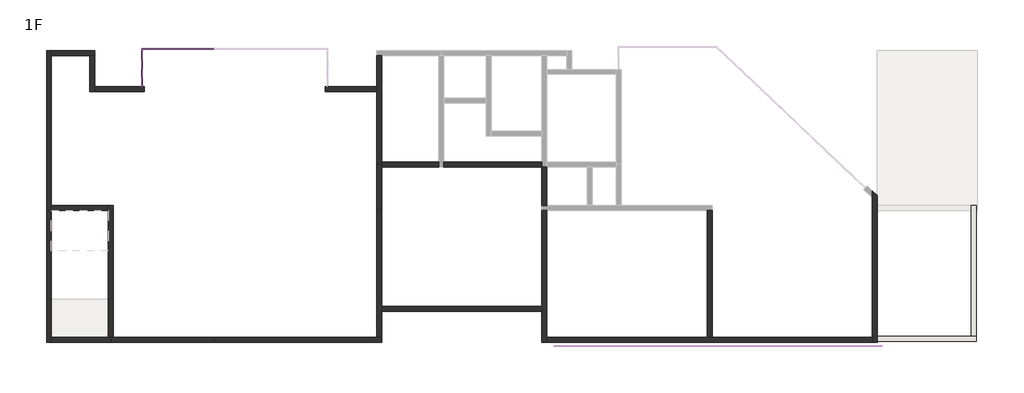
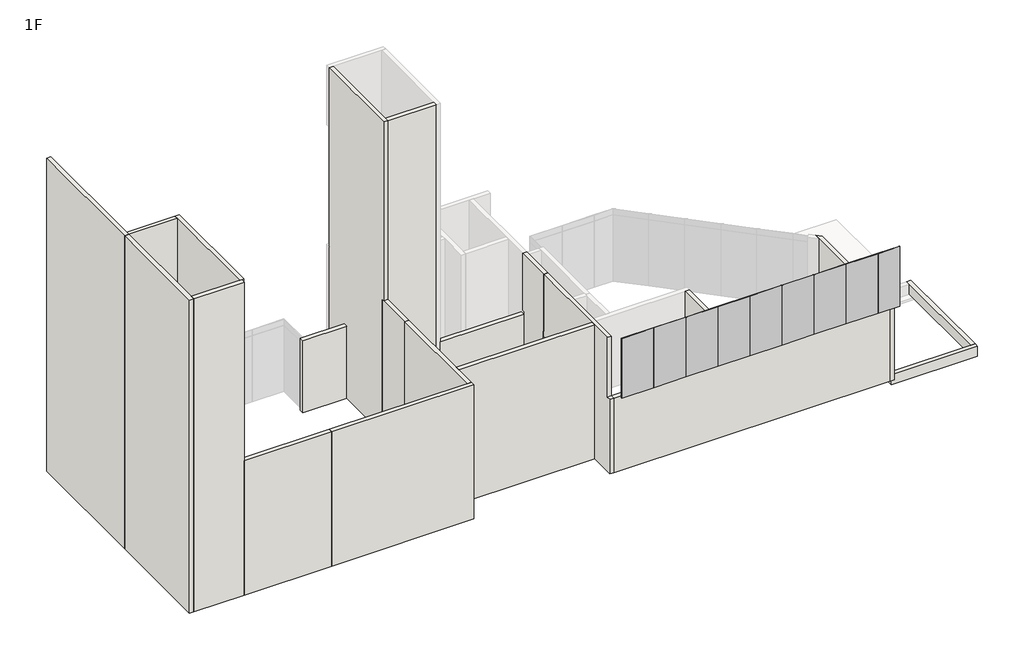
# One storey, part 1 of 2: 24 walls, 17 plates.
"""IFC4 building model written with IfcOpenShell, lengths in millimetres."""

from ifc_helpers import new_model, si_unit, origin, origin_with_axes, place, context, project, spatial, polyline, outline, extrude, faceted_brep, transform, mapped, element, save
from components import plate_0c29ff76, plate_bc78ace2, plate_2c2a9886, plate_74756071, plate_0147c95a, plate_d467b3da, plate_56329b22, plate_ae86cf34, plate_af46959f

model = new_model("IFC4")

# Units and contexts
model_context = context("Model", 3, world=origin())
ifc_project = project(units=[si_unit("LENGTHUNIT", "METRE", prefix="MILLI")], contexts=[model_context])

# Site, building, storey
site = spatial("IfcSite", under=ifc_project)
building = spatial("IfcBuilding", under=site)
storey = spatial("IfcBuildingStorey", under=building, Name="1F", Elevation=0.0)

# Plates
placement = place(None, origin())
plate_shape = plate_0c29ff76(model_context)
element("IfcPlate", 1, ObjectType="系统嵌板 : 玻璃", at=placement, inside=storey, context=model_context, shape_type="MappedRepresentation", body=[
    mapped(plate_shape, transform((-1665.4379116, 8988.8697102, 0.0), x_axis=(-1.0, 0.0, 0.0), y_axis=(0.0, -1.0, 0.0), z_axis=(0.0, 0.0, 1.0))),
])
element("IfcPlate", 2, ObjectType="系统嵌板 : 玻璃", at=placement, inside=storey, context=model_context, shape_type="MappedRepresentation", body=[
    mapped(plate_shape, transform((-4260.4379116, 8073.8697102, 0.0), x_axis=(0.0, -1.0, 0.0), y_axis=(1.0, 0.0, 0.0), z_axis=(0.0, 0.0, 1.0))),
])
plate_2_shape = plate_bc78ace2(model_context)
element("IfcPlate", 3, ObjectType="系统嵌板 : 玻璃", at=placement, inside=storey, context=model_context, shape_type="MappedRepresentation", body=[
    mapped(plate_2_shape, transform((-4260.4379116, 7153.8697102, 0.0), x_axis=(0.0, -1.0, 0.0), y_axis=(1.0, 0.0, 0.0), z_axis=(0.0, 0.0, 1.0))),
])
plate_3_shape = plate_2c2a9886(model_context)
element("IfcPlate", 4, ObjectType="系统嵌板 : 玻璃", at=placement, inside=storey, context=model_context, shape_type="MappedRepresentation", body=[
    mapped(plate_3_shape, transform((-3420.4379116, 8988.8697102, 0.0), x_axis=(-1.0, 0.0, 0.0), y_axis=(0.0, -1.0, 0.0), z_axis=(0.0, 0.0, 1.0))),
])
plate_4_shape = plate_74756071(model_context)
element("IfcPlate", 5, ObjectType="系统嵌板 : 玻璃", at=placement, inside=storey, context=model_context, shape_type="MappedRepresentation", body=[
    mapped(plate_4_shape, transform((-1665.4379116, 8988.8697102, 4000.0), x_axis=(-1.0, 0.0, 0.0), y_axis=(0.0, -1.0, 0.0), z_axis=(0.0, 0.0, 1.0))),
])
plate_5_shape = plate_0147c95a(model_context)
element("IfcPlate", 6, ObjectType="系统嵌板 : 玻璃", at=placement, inside=storey, context=model_context, shape_type="MappedRepresentation", body=[
    mapped(plate_5_shape, transform((-3420.4379116, 8988.8697102, 4000.0), x_axis=(-1.0, 0.0, 0.0), y_axis=(0.0, -1.0, 0.0), z_axis=(0.0, 0.0, 1.0))),
])
plate_6_shape = plate_d467b3da(model_context)
element("IfcPlate", 7, ObjectType="系统嵌板 : 玻璃", at=placement, inside=storey, context=model_context, shape_type="MappedRepresentation", body=[
    mapped(plate_6_shape, transform((-4260.4379116, 8073.8697102, 4000.0), x_axis=(0.0, -1.0, 0.0), y_axis=(1.0, 0.0, 0.0), z_axis=(0.0, 0.0, 1.0))),
])
plate_7_shape = plate_56329b22(model_context)
element("IfcPlate", 8, ObjectType="系统嵌板 : 玻璃", at=placement, inside=storey, context=model_context, shape_type="MappedRepresentation", body=[
    mapped(plate_7_shape, transform((-4260.4379116, 7153.8697102, 4000.0), x_axis=(0.0, -1.0, 0.0), y_axis=(1.0, 0.0, 0.0), z_axis=(0.0, 0.0, 1.0))),
])
plate_8_shape = plate_ae86cf34(model_context)
element("IfcPlate", 9, ObjectType="系统嵌板 : 玻璃", at=placement, inside=storey, context=model_context, shape_type="MappedRepresentation", body=[
    mapped(plate_8_shape, transform((16604.5620884, -5438.6302898, 4500.0), x_axis=(1.0, 0.0, 0.0), y_axis=(0.0, 1.0, 0.0), z_axis=(0.0, 0.0, 1.0))),
])
element("IfcPlate", 10, ObjectType="系统嵌板 : 玻璃", at=placement, inside=storey, context=model_context, shape_type="MappedRepresentation", body=[
    mapped(plate_8_shape, transform((18434.5620884, -5438.6302898, 4500.0), x_axis=(1.0, 0.0, 0.0), y_axis=(0.0, 1.0, 0.0), z_axis=(0.0, 0.0, 1.0))),
])
element("IfcPlate", 11, ObjectType="系统嵌板 : 玻璃", at=placement, inside=storey, context=model_context, shape_type="MappedRepresentation", body=[
    mapped(plate_8_shape, transform((20264.5620884, -5438.6302898, 4500.0), x_axis=(1.0, 0.0, 0.0), y_axis=(0.0, 1.0, 0.0), z_axis=(0.0, 0.0, 1.0))),
])
element("IfcPlate", 12, ObjectType="系统嵌板 : 玻璃", at=placement, inside=storey, context=model_context, shape_type="MappedRepresentation", body=[
    mapped(plate_8_shape, transform((22094.5620884, -5438.6302898, 4500.0), x_axis=(1.0, 0.0, 0.0), y_axis=(0.0, 1.0, 0.0), z_axis=(0.0, 0.0, 1.0))),
])
element("IfcPlate", 13, ObjectType="系统嵌板 : 玻璃", at=placement, inside=storey, context=model_context, shape_type="MappedRepresentation", body=[
    mapped(plate_8_shape, transform((23924.5620884, -5438.6302898, 4500.0), x_axis=(1.0, 0.0, 0.0), y_axis=(0.0, 1.0, 0.0), z_axis=(0.0, 0.0, 1.0))),
])
element("IfcPlate", 14, ObjectType="系统嵌板 : 玻璃", at=placement, inside=storey, context=model_context, shape_type="MappedRepresentation", body=[
    mapped(plate_8_shape, transform((25754.5620884, -5438.6302898, 4500.0), x_axis=(1.0, 0.0, 0.0), y_axis=(0.0, 1.0, 0.0), z_axis=(0.0, 0.0, 1.0))),
])
element("IfcPlate", 15, ObjectType="系统嵌板 : 玻璃", at=placement, inside=storey, context=model_context, shape_type="MappedRepresentation", body=[
    mapped(plate_8_shape, transform((27584.5620884, -5438.6302898, 4500.0), x_axis=(1.0, 0.0, 0.0), y_axis=(0.0, 1.0, 0.0), z_axis=(0.0, 0.0, 1.0))),
])
element("IfcPlate", 16, ObjectType="系统嵌板 : 玻璃", at=placement, inside=storey, context=model_context, shape_type="MappedRepresentation", body=[
    mapped(plate_8_shape, transform((29414.5620884, -5438.6302898, 4500.0), x_axis=(1.0, 0.0, 0.0), y_axis=(0.0, 1.0, 0.0), z_axis=(0.0, 0.0, 1.0))),
])
plate_9_shape = plate_af46959f(model_context)
element("IfcPlate", 17, ObjectType="系统嵌板 : 玻璃", at=placement, inside=storey, context=model_context, shape_type="MappedRepresentation", body=[
    mapped(plate_9_shape, transform((30950.8120884, -5438.6302898, 4500.0), x_axis=(1.0, 0.0, 0.0), y_axis=(0.0, 1.0, 0.0), z_axis=(0.0, 0.0, 1.0))),
])

# Walls
element("IfcWall", 18, ObjectType="常规 - 240mm", at=placement, inside=storey, context=model_context, shape_type="Brep", body=[
    faceted_brep([(-8880.4379116, 8888.8697102, 0.0), (-8880.4379116, 1148.8697102, 0.0), (-8880.4379116, 1148.8697102, 18900.0), (-8880.4379116, 8888.8697102, 18900.0), (-8640.4379116, 8888.8697102, 0.0), (-8640.4379116, 8888.8697102, 8100.0), (-8640.4379116, 8888.8697102, 18900.0), (-8640.4379116, 1388.8697102, 18900.0), (-8640.4379116, 1148.8697102, 18900.0), (-8640.4379116, 1148.8697102, 0.0), (-8640.4379116, 1388.8697102, 0.0), (-8640.4379116, 8648.8697102, 0.0)], [[[0, 1, 2, 3]], [[4, 5, 6, 7, 8, 9, 10, 11]], [[1, 0, 4, 11, 10, 9]], [[3, 2, 8, 7, 6]], [[0, 3, 6, 5, 4]], [[2, 1, 9, 8]]]),
])
element("IfcWall", 19, ObjectType="常规 - 240mm", at=placement, inside=storey, context=model_context, shape_type="Brep", body=[
    faceted_brep([(-8640.4379116, -5251.1302898, 0.0), (-5760.4379116, -5251.1302898, 0.0), (-5760.4379116, -5251.1302898, 8100.0), (-5760.4379116, -5251.1302898, 18900.0), (-8640.4379116, -5251.1302898, 18900.0), (-8640.4379116, -5011.1302898, 0.0), (-8640.4379116, -5011.1302898, 18900.0), (-5880.4379116, -5011.1302898, 18900.0), (-5760.4379116, -5011.1302898, 18900.0), (-5760.4379116, -5011.1302898, 8100.0), (-5760.4379116, -5011.1302898, 0.0), (-5880.4379116, -5011.1302898, 0.0)], [[[0, 1, 2, 3, 4]], [[5, 6, 7, 8, 9, 10, 11]], [[1, 0, 5, 11, 10]], [[4, 3, 8, 7, 6]], [[0, 4, 6, 5]], [[1, 10, 9, 8, 3, 2]]]),
])
element("IfcWall", 20, ObjectType="常规 - 240mm", at=placement, inside=storey, context=model_context, shape_type="Brep", body=[
    faceted_brep([(7359.5620884, -5011.1302898, 0.0), (7359.5620884, -3751.1302898, 0.0), (7359.5620884, -3511.1302898, 0.0), (7359.5620884, 1168.8697102, 0.0), (7359.5620884, 1168.8697102, 8100.0), (7359.5620884, -3511.1302898, 8100.0), (7359.5620884, -3751.1302898, 8100.0), (7359.5620884, -5011.1302898, 8100.0), (7119.5620884, -5011.1302898, 0.0), (7119.5620884, -5011.1302898, 8100.0), (7119.5620884, 1168.8697102, 8100.0), (7119.5620884, 1168.8697102, 0.0)], [[[0, 1, 2, 3, 4, 5, 6, 7]], [[8, 9, 10, 11]], [[3, 2, 1, 0, 8, 11]], [[4, 3, 11, 10]], [[7, 6, 5, 4, 10, 9]], [[0, 7, 9, 8]]]),
])
element("IfcWall", 21, ObjectType="常规 - 240mm 2", at=placement, inside=storey, context=model_context, shape_type="SweptSolid", body=[
    extrude(outline(polyline([(23359.5620884, 1148.8697102), (23359.5620884, -5011.1302898), (23119.5620884, -5011.1302898), (23119.5620884, 1148.8697102), (23359.5620884, 1148.8697102)])), origin_with_axes(), (0.0, 0.0, 1.0), 4350.0),
])
element("IfcWall", 22, ObjectType="常规 - 240mm 2", at=placement, inside=storey, context=model_context, shape_type="Brep", body=[
    faceted_brep([(-5640.4379116, -5011.1302898, 18900.0), (-5640.4379116, -5011.1302898, 0.0), (-5640.4379116, -4951.1302898, 0.0), (-5640.4379116, 1148.8697102, 0.0), (-5640.4379116, 1388.8697102, 0.0), (-5640.4379116, 1388.8697102, 8100.0), (-5640.4379116, 1388.8697102, 11700.0), (-5640.4379116, 1388.8697102, 18900.0), (-5880.4379116, -5011.1302898, 0.0), (-5880.4379116, -5011.1302898, 18900.0), (-5880.4379116, 1148.8697102, 18900.0), (-5880.4379116, 1388.8697102, 18900.0), (-5880.4379116, 1388.8697102, 0.0), (-5880.4379116, 1148.8697102, 0.0), (-5880.4379116, -4951.1302898, 0.0), (-5760.4379116, -5011.1302898, 0.0), (-5760.4379116, -5011.1302898, 18900.0)], [[[0, 1, 2, 3, 4, 5, 6, 7]], [[8, 9, 10, 11, 12, 13, 14]], [[4, 3, 2, 1, 15, 8, 14, 13, 12]], [[0, 7, 11, 10, 9, 16]], [[0, 16, 9, 8, 15, 1]], [[4, 12, 11, 7, 6, 5]]]),
])
element("IfcWall", 23, ObjectType="常规 - 240mm 2", at=placement, inside=storey, context=model_context, shape_type="Brep", body=[
    faceted_brep([(-5880.4379116, 1388.8697102, 18900.0), (-5880.4379116, 1388.8697102, 0.0), (-8580.4379116, 1388.8697102, 0.0), (-8640.4379116, 1388.8697102, 0.0), (-8640.4379116, 1388.8697102, 18900.0), (-5880.4379116, 1148.8697102, 0.0), (-5880.4379116, 1148.8697102, 18900.0), (-8640.4379116, 1148.8697102, 18900.0), (-8640.4379116, 1148.8697102, 0.0), (-8580.4379116, 1148.8697102, 0.0)], [[[0, 1, 2, 3, 4]], [[5, 6, 7, 8, 9]], [[3, 2, 1, 5, 9, 8]], [[0, 4, 7, 6]], [[4, 3, 8, 7]], [[0, 6, 5, 1]]]),
])
element("IfcWall", 24, ObjectType="常规 - 240mm", at=placement, inside=storey, context=model_context, shape_type="Brep", body=[
    faceted_brep([(31359.5620884, -5251.1302898, 4350.0), (31359.5620884, -5251.1302898, 0.0), (31359.5620884, -5191.1302898, 0.0), (31359.5620884, -4951.1302898, 0.0), (31359.5620884, 1268.8697102, 0.0), (31359.5620884, 1868.8697102, 0.0), (31359.5620884, 1868.8697102, 4350.0), (31119.5620884, -5251.1302898, 0.0), (31119.5620884, -5251.1302898, 4350.0), (31119.5620884, 2096.6649858, 4350.0), (31119.5620884, 2096.6649858, 0.0), (31119.5620884, 1268.8697102, 0.0), (31119.5620884, -4951.1302898, 0.0), (31119.5620884, -5011.1302898, 0.0)], [[[0, 1, 2, 3, 4, 5, 6]], [[7, 8, 9, 10, 11, 12, 13]], [[5, 4, 3, 2, 1, 7, 13, 12, 11, 10]], [[6, 5, 10, 9]], [[0, 6, 9, 8]], [[0, 8, 7, 1]]]),
])
element("IfcWall", 25, ObjectType="常规 - 240mm", at=placement, inside=storey, context=model_context, shape_type="SweptSolid", body=[
    extrude(outline(polyline([(15119.5620884, -3751.1302898), (7359.5620884, -3751.1302898), (7359.5620884, -3511.1302898), (15119.5620884, -3511.1302898), (15119.5620884, -3751.1302898)])), origin_with_axes(), (0.0, 0.0, 1.0), 8100.0),
])
element("IfcWall", 26, ObjectType="常规 - 240mm", at=placement, inside=storey, context=model_context, shape_type="Brep", body=[
    faceted_brep([(-6780.4379116, 8648.8697102, 0.0), (-6780.4379116, 6908.8697102, 0.0), (-6780.4379116, 6908.8697102, 4350.0), (-6780.4379116, 8648.8697102, 4350.0), (-6540.4379116, 8648.8697102, 0.0), (-6540.4379116, 8648.8697102, 4350.0), (-6540.4379116, 7148.8697102, 4350.0), (-6540.4379116, 6908.8697102, 4350.0), (-6540.4379116, 6908.8697102, 0.0), (-6540.4379116, 7148.8697102, 0.0)], [[[0, 1, 2, 3]], [[4, 5, 6, 7, 8, 9]], [[1, 0, 4, 9, 8]], [[2, 1, 8, 7]], [[3, 2, 7, 6, 5]], [[0, 3, 5, 4]]]),
])
element("IfcWall", 27, ObjectType="常规 - 240mm", at=placement, inside=storey, context=model_context, shape_type="SweptSolid", body=[
    extrude(outline(polyline([(-4140.4379116, 6908.8697102), (-6540.4379116, 6908.8697102), (-6540.4379116, 7148.8697102), (-4140.4379116, 7148.8697102), (-4140.4379116, 6908.8697102)])), origin_with_axes(), (0.0, 0.0, 1.0), 4350.0),
])
element("IfcWall", 28, ObjectType="常规 - 240mm", at=placement, inside=storey, context=model_context, shape_type="Brep", body=[
    faceted_brep([(-6540.4379116, 8888.8697102, 0.0), (-8640.4379116, 8888.8697102, 0.0), (-8640.4379116, 8888.8697102, 8100.0), (-6540.4379116, 8888.8697102, 8100.0), (-6540.4379116, 8648.8697102, 0.0), (-6540.4379116, 8648.8697102, 4350.0), (-6540.4379116, 8648.8697102, 8100.0), (-8640.4379116, 8648.8697102, 8100.0), (-8640.4379116, 8648.8697102, 0.0), (-6780.4379116, 8648.8697102, 0.0)], [[[0, 1, 2, 3]], [[4, 5, 6, 7, 8, 9]], [[1, 0, 4, 9, 8]], [[3, 2, 7, 6]], [[0, 3, 6, 5, 4]], [[2, 1, 8, 7]]]),
])
element("IfcWall", 29, ObjectType="常规 - 240mm", at=placement, inside=storey, context=model_context, shape_type="SweptSolid", body=[
    extrude(outline(polyline([(7119.5620884, 6908.8697102), (4619.5620884, 6908.8697102), (4619.5620884, 7148.8697102), (7119.5620884, 7148.8697102), (7119.5620884, 6908.8697102)])), origin_with_axes(), (0.0, 0.0, 1.0), 4350.0),
])
element("IfcWall", 30, ObjectType="常规 - 240mm", at=placement, inside=storey, context=model_context, shape_type="Brep", body=[
    faceted_brep([(15119.5620884, 1148.8697102, 0.0), (15119.5620884, -3511.1302898, 0.0), (15119.5620884, -3751.1302898, 0.0), (15119.5620884, -5251.1302898, 0.0), (15119.5620884, -5251.1302898, 4500.0), (15119.5620884, -5011.1302898, 4500.0), (15119.5620884, -5011.1302898, 8100.0), (15119.5620884, -3751.1302898, 8100.0), (15119.5620884, -3511.1302898, 8100.0), (15119.5620884, 1268.8697102, 8100.0), (15119.5620884, 1268.8697102, 4650.0), (15119.5620884, 1268.8697102, 4350.0), (15119.5620884, 1148.8697102, 4350.0), (15359.5620884, 1148.8697102, 0.0), (15359.5620884, 1148.8697102, 4350.0), (15359.5620884, 1268.8697102, 4350.0), (15359.5620884, 1268.8697102, 4650.0), (15359.5620884, 1268.8697102, 8100.0), (15359.5620884, -5011.1302898, 8100.0), (15359.5620884, -5011.1302898, 4500.0), (15359.5620884, -5251.1302898, 4500.0), (15359.5620884, -5251.1302898, 0.0), (15359.5620884, -5011.1302898, 0.0)], [[[0, 1, 2, 3, 4, 5, 6, 7, 8, 9, 10, 11, 12]], [[13, 14, 15, 16, 17, 18, 19, 20, 21, 22]], [[3, 2, 1, 0, 13, 22, 21]], [[9, 8, 7, 6, 18, 17]], [[11, 10, 9, 17, 16, 15]], [[11, 15, 14, 12]], [[0, 12, 14, 13]], [[19, 5, 4, 20]], [[4, 3, 21, 20]], [[6, 5, 19, 18]]]),
])
element("IfcWall", 31, ObjectType="常规 - 240mm", at=placement, inside=storey, context=model_context, shape_type="Brep", body=[
    faceted_brep([(15119.5620884, 3248.8697102, 4650.0), (15119.5620884, 3248.8697102, 0.0), (15119.5620884, 1388.8697102, 0.0), (15119.5620884, 1388.8697102, 4350.0), (15119.5620884, 1388.8697102, 4650.0), (15119.5620884, 1268.8697102, 4650.0), (15119.5620884, 1268.8697102, 8100.0), (15119.5620884, 3248.8697102, 8100.0), (15119.5620884, 3368.8697102, 8100.0), (15119.5620884, 3368.8697102, 4650.0), (15359.5620884, 3248.8697102, 0.0), (15359.5620884, 3248.8697102, 4650.0), (15359.5620884, 3368.8697102, 4650.0), (15359.5620884, 3368.8697102, 8100.0), (15359.5620884, 1268.8697102, 8100.0), (15359.5620884, 1268.8697102, 4650.0), (15359.5620884, 1388.8697102, 4650.0), (15359.5620884, 1388.8697102, 0.0)], [[[0, 1, 2, 3, 4, 5, 6, 7, 8, 9]], [[10, 11, 12, 13, 14, 15, 16, 17]], [[2, 1, 10, 17]], [[8, 7, 6, 14, 13]], [[6, 5, 15, 14]], [[15, 5, 4, 16]], [[4, 3, 2, 17, 16]], [[9, 8, 13, 12]], [[9, 12, 11, 0]], [[0, 11, 10, 1]]]),
])
element("IfcWall", 32, ObjectType="常规 - 240mm 2", at=placement, inside=storey, context=model_context, shape_type="Brep", body=[
    faceted_brep([(10119.5620884, 3488.8697102, 18900.0), (10119.5620884, 3488.8697102, 0.0), (7359.5620884, 3488.8697102, 0.0), (7359.5620884, 3488.8697102, 18900.0), (10119.5620884, 3248.8697102, 0.0), (10119.5620884, 3248.8697102, 18900.0), (7359.5620884, 3248.8697102, 18900.0), (7359.5620884, 3248.8697102, 8100.0), (7359.5620884, 3248.8697102, 0.0), (7359.5620884, 3368.8697102, 0.0)], [[[0, 1, 2, 3]], [[4, 5, 6, 7, 8]], [[2, 1, 4, 8, 9]], [[0, 3, 6, 5]], [[2, 9, 8, 7, 6, 3]], [[0, 5, 4, 1]]]),
])
element("IfcWall", 33, ObjectType="常规 - 240mm 2", at=placement, inside=storey, context=model_context, shape_type="Brep", body=[
    faceted_brep([(15119.5620884, 3488.8697102, 0.0), (10359.5620884, 3488.8697102, 0.0), (10359.5620884, 3488.8697102, 4500.0), (15119.5620884, 3488.8697102, 4500.0), (15119.5620884, 3248.8697102, 0.0), (15119.5620884, 3248.8697102, 4500.0), (10359.5620884, 3248.8697102, 4500.0), (10359.5620884, 3248.8697102, 0.0), (10359.5620884, 3368.8697102, 4500.0)], [[[0, 1, 2, 3]], [[4, 5, 6, 7]], [[1, 0, 4, 7]], [[3, 2, 8, 6, 5]], [[2, 1, 7, 6, 8]], [[0, 3, 5, 4]]]),
])
element("IfcWall", 34, ObjectType="常规 - 240mm 2", at=placement, inside=storey, context=model_context, shape_type="Brep", body=[
    faceted_brep([(7359.5620884, 3368.8697102, 0.0), (7359.5620884, 3488.8697102, 0.0), (7359.5620884, 8648.8697102, 0.0), (7359.5620884, 8648.8697102, 18900.0), (7359.5620884, 3488.8697102, 18900.0), (7359.5620884, 3248.8697102, 18900.0), (7359.5620884, 3248.8697102, 8100.0), (7359.5620884, 3368.8697102, 8100.0), (7119.5620884, 3368.8697102, 0.0), (7119.5620884, 3368.8697102, 8100.0), (7119.5620884, 3248.8697102, 8100.0), (7119.5620884, 3248.8697102, 11700.0), (7119.5620884, 3248.8697102, 18900.0), (7119.5620884, 8648.8697102, 18900.0), (7119.5620884, 8648.8697102, 15300.0), (7119.5620884, 8648.8697102, 8100.0), (7119.5620884, 8648.8697102, 0.0), (7119.5620884, 7148.8697102, 0.0), (7119.5620884, 6908.8697102, 0.0)], [[[0, 1, 2, 3, 4, 5, 6, 7]], [[8, 9, 10, 11, 12, 13, 14, 15, 16, 17, 18]], [[2, 1, 0, 8, 18, 17, 16]], [[5, 4, 3, 13, 12]], [[0, 7, 9, 8]], [[6, 10, 9, 7]], [[2, 16, 15, 14, 13, 3]], [[5, 12, 11, 10, 6]]]),
])
element("IfcWall", 35, ObjectType="常规 - 240mm", at=placement, inside=storey, context=model_context, shape_type="Brep", body=[
    faceted_brep([(7359.5620884, 1168.8697102, 0.0), (7359.5620884, 3248.8697102, 0.0), (7359.5620884, 3368.8697102, 0.0), (7359.5620884, 3368.8697102, 8100.0), (7359.5620884, 3248.8697102, 8100.0), (7359.5620884, 1168.8697102, 8100.0), (7119.5620884, 1168.8697102, 0.0), (7119.5620884, 1168.8697102, 8100.0), (7119.5620884, 3248.8697102, 8100.0), (7119.5620884, 3368.8697102, 8100.0), (7119.5620884, 3368.8697102, 0.0)], [[[0, 1, 2, 3, 4, 5]], [[6, 7, 8, 9, 10]], [[2, 1, 0, 6, 10]], [[3, 2, 10, 9]], [[5, 4, 3, 9, 8, 7]], [[0, 5, 7, 6]]]),
])
element("IfcWall", 36, ObjectType="常规 - 240mm", at=placement, inside=storey, context=model_context, shape_type="Brep", body=[
    faceted_brep([(-8880.4379116, 1148.8697102, 0.0), (-8880.4379116, -5251.1302898, 0.0), (-8880.4379116, -5251.1302898, 18900.0), (-8880.4379116, 1148.8697102, 18900.0), (-8640.4379116, 1148.8697102, 0.0), (-8640.4379116, 1148.8697102, 18900.0), (-8640.4379116, -5011.1302898, 18900.0), (-8640.4379116, -5251.1302898, 18900.0), (-8640.4379116, -5251.1302898, 0.0), (-8640.4379116, -5011.1302898, 0.0)], [[[0, 1, 2, 3]], [[4, 5, 6, 7, 8, 9]], [[1, 0, 4, 9, 8]], [[3, 2, 7, 6, 5]], [[2, 1, 8, 7]], [[0, 3, 5, 4]]]),
])
element("IfcWall", 37, ObjectType="常规 - 240mm", at=placement, inside=storey, context=model_context, shape_type="Brep", body=[
    faceted_brep([(-5760.4379116, -5251.1302898, 0.0), (-760.4379116, -5251.1302898, 0.0), (-760.4379116, -5251.1302898, 8100.0), (-5760.4379116, -5251.1302898, 8100.0), (-5760.4379116, -5011.1302898, 0.0), (-5760.4379116, -5011.1302898, 8100.0), (-760.4379116, -5011.1302898, 8100.0), (-760.4379116, -5011.1302898, 0.0), (-5640.4379116, -5011.1302898, 0.0)], [[[0, 1, 2, 3]], [[4, 5, 6, 7, 8]], [[1, 0, 4, 8, 7]], [[2, 1, 7, 6]], [[3, 2, 6, 5]], [[0, 3, 5, 4]]]),
])
element("IfcWall", 38, ObjectType="常规 - 240mm", at=placement, inside=storey, context=model_context, shape_type="Brep", body=[
    faceted_brep([(-760.4379116, -5251.1302898, 0.0), (7359.5620884, -5251.1302898, 0.0), (7359.5620884, -5251.1302898, 8100.0), (-760.4379116, -5251.1302898, 8100.0), (-760.4379116, -5011.1302898, 0.0), (-760.4379116, -5011.1302898, 8100.0), (7119.5620884, -5011.1302898, 8100.0), (7359.5620884, -5011.1302898, 8100.0), (7359.5620884, -5011.1302898, 0.0), (7119.5620884, -5011.1302898, 0.0)], [[[0, 1, 2, 3]], [[4, 5, 6, 7, 8, 9]], [[1, 0, 4, 9, 8]], [[3, 2, 7, 6, 5]], [[0, 3, 5, 4]], [[2, 1, 8, 7]]]),
])
element("IfcWall", 39, ObjectType="常规 - 240mm", at=placement, inside=storey, context=model_context, shape_type="Brep", body=[
    faceted_brep([(15359.5620884, -5251.1302898, 0.0), (31119.5620884, -5251.1302898, 0.0), (31119.5620884, -5251.1302898, 4350.0), (31119.5620884, -5251.1302898, 4500.0), (15689.5620884, -5251.1302898, 4500.0), (15359.5620884, -5251.1302898, 4500.0), (15359.5620884, -5011.1302898, 0.0), (15359.5620884, -5011.1302898, 4500.0), (15689.5620884, -5011.1302898, 4500.0), (31119.5620884, -5011.1302898, 4500.0), (31119.5620884, -5011.1302898, 0.0), (23359.5620884, -5011.1302898, 0.0), (23119.5620884, -5011.1302898, 0.0)], [[[0, 1, 2, 3, 4, 5]], [[6, 7, 8, 9, 10, 11, 12]], [[1, 0, 6, 12, 11, 10]], [[5, 4, 3, 9, 8, 7]], [[0, 5, 7, 6]], [[1, 10, 9, 3, 2]]]),
])
element("IfcWall", 40, ObjectType="常规 - 240mm", at=placement, inside=storey, context=model_context, shape_type="Brep", body=[
    faceted_brep([(31239.5620884, -5191.1302898, -300.0), (36159.5620884, -5191.1302898, -300.0), (36159.5620884, -5191.1302898, 300.0), (31359.5620884, -5191.1302898, 300.0), (31359.5620884, -5191.1302898, 0.0), (31239.5620884, -5191.1302898, 0.0), (31239.5620884, -4951.1302898, -300.0), (31239.5620884, -4951.1302898, 0.0), (31359.5620884, -4951.1302898, 0.0), (31359.5620884, -4951.1302898, 300.0), (35919.5620884, -4951.1302898, 300.0), (36159.5620884, -4951.1302898, 300.0), (36159.5620884, -4951.1302898, -300.0), (35919.5620884, -4951.1302898, -300.0)], [[[0, 1, 2, 3, 4, 5]], [[6, 7, 8, 9, 10, 11, 12, 13]], [[1, 0, 6, 13, 12]], [[3, 2, 11, 10, 9]], [[2, 1, 12, 11]], [[0, 5, 7, 6]], [[4, 8, 7, 5]], [[4, 3, 9, 8]]]),
])
element("IfcWall", 41, ObjectType="常规 - 240mm", at=placement, inside=storey, context=model_context, shape_type="Brep", body=[
    faceted_brep([(36159.5620884, -4951.1302898, -300.0), (36159.5620884, 1388.8697102, -300.0), (36159.5620884, 1388.8697102, 300.0), (36159.5620884, -4951.1302898, 300.0), (35919.5620884, -4951.1302898, -300.0), (35919.5620884, -4951.1302898, 300.0), (35919.5620884, 1148.8697102, 300.0), (35919.5620884, 1388.8697102, 300.0), (35919.5620884, 1388.8697102, -300.0), (35919.5620884, 1148.8697102, -300.0)], [[[0, 1, 2, 3]], [[4, 5, 6, 7, 8, 9]], [[1, 0, 4, 9, 8]], [[3, 2, 7, 6, 5]], [[0, 3, 5, 4]], [[2, 1, 8, 7]]]),
])

save(model, "model.ifc")
